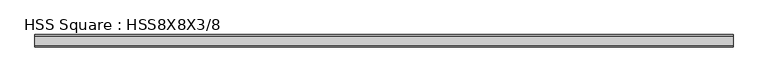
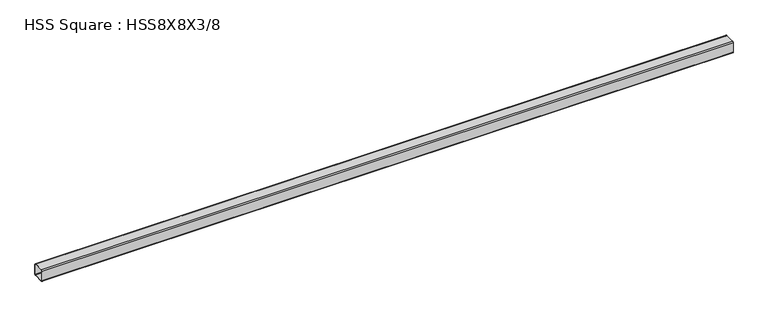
"""IFC4 building model written with IfcOpenShell, lengths in millimetres: beam geometry, HSS Square : HSS8X8X3/8."""

from ifc_helpers import new_model, si_unit, point, frame, frame_2d, origin, place, context, project, spatial, polyline, circle_curve, trimmed, segment, composite_curve, outline, extrude, source, transform, mapped, element, save


def hss_square_hss8x8x3_8_a07c3f43(model_context):
    return source(origin(), model_context, "Body", "SweptSolid", [
        extrude(outline(composite_curve([segment(polyline([(101.6, 82.55), (101.6, -82.55)]), True, "CONTINUOUS"), segment(trimmed(circle_curve(frame_2d((82.55, -82.55)), 19.05), [point((101.6, -82.55))], [point((82.55, -101.6))], False, "CARTESIAN"), True, "CONTINUOUS"), segment(polyline([(82.55, -101.6), (-82.55, -101.6)]), True, "CONTINUOUS"), segment(trimmed(circle_curve(frame_2d((-82.55, -82.55)), 19.05), [point((-82.55, -101.6))], [point((-101.6, -82.55))], False, "CARTESIAN"), True, "CONTINUOUS"), segment(polyline([(-101.6, -82.55), (-101.6, 82.55)]), True, "CONTINUOUS"), segment(trimmed(circle_curve(frame_2d((-82.55, 82.55)), 19.05), [point((-101.6, 82.55))], [point((-82.55, 101.6))], False, "CARTESIAN"), True, "CONTINUOUS"), segment(polyline([(-82.55, 101.6), (82.55, 101.6)]), True, "CONTINUOUS"), segment(trimmed(circle_curve(frame_2d((82.55, 82.55)), 19.05), [point((82.55, 101.6))], [point((101.6, 82.55))], False, "CARTESIAN"), True, "CONTINUOUS")], self_intersect=False), holes=[composite_curve([segment(trimmed(circle_curve(frame_2d((-82.55, 82.55)), 9.525), [point((-82.55, 92.075))], [point((-92.075, 82.55))], True, "CARTESIAN"), True, "CONTINUOUS"), segment(polyline([(-92.075, 82.55), (-92.075, -82.55)]), True, "CONTINUOUS"), segment(trimmed(circle_curve(frame_2d((-82.55, -82.55)), 9.525), [point((-92.075, -82.55))], [point((-82.55, -92.075))], True, "CARTESIAN"), True, "CONTINUOUS"), segment(polyline([(-82.55, -92.075), (82.55, -92.075)]), True, "CONTINUOUS"), segment(trimmed(circle_curve(frame_2d((82.55, -82.55)), 9.525), [point((82.55, -92.075))], [point((92.075, -82.55))], True, "CARTESIAN"), True, "CONTINUOUS"), segment(polyline([(92.075, -82.55), (92.075, 82.55)]), True, "CONTINUOUS"), segment(trimmed(circle_curve(frame_2d((82.55, 82.55)), 9.525), [point((92.075, 82.55))], [point((82.55, 92.075))], True, "CARTESIAN"), True, "CONTINUOUS"), segment(polyline([(82.55, 92.075), (-82.55, 92.075)]), True, "CONTINUOUS")], self_intersect=False)]), frame((-5716.1410764, 0.0, 0.0), z_axis=(1.0, 0.0, 0.0), x_axis=(0.0, 1.0, 0.0)), (0.0, 0.0, 1.0), 11597.3821529),
    ])


if __name__ == "__main__":
    model = new_model("IFC4")
    model_context = context("Model", 3, world=origin())
    ifc_project = project(units=[si_unit("LENGTHUNIT", "METRE", prefix="MILLI")], contexts=[model_context])
    site = spatial("IfcSite", under=ifc_project)
    building = spatial("IfcBuilding", under=site)
    placement = place(None, origin())
    hss_square_hss8x8x3_8_shape = hss_square_hss8x8x3_8_a07c3f43(model_context)
    element("IfcBeam", 1, ObjectType="HSS Square : HSS8X8X3/8", at=placement, inside=building, context=model_context, shape_type="MappedRepresentation", body=[
        mapped(hss_square_hss8x8x3_8_shape, transform((0.0, 0.0, 0.0), x_axis=(1.0, 0.0, 0.0), y_axis=(0.0, 1.0, 0.0), z_axis=(0.0, 0.0, 1.0))),
    ])
    save(model, "model.ifc")
